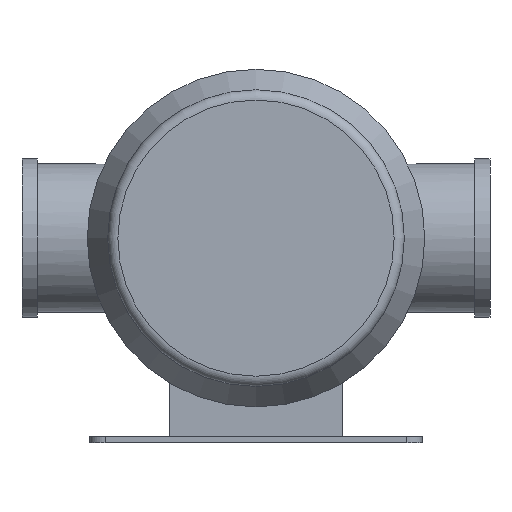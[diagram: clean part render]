
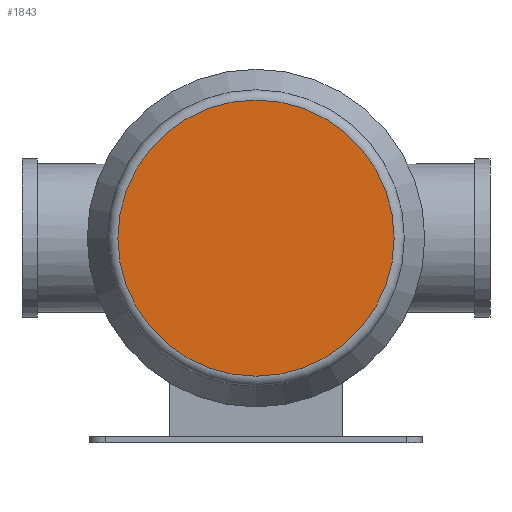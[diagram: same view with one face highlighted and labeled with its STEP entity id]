
A CAD part, front view. The second image highlights one B-rep face of the part: STEP entity #1843.
In plain terms, the highlighted planar face has unit normal (0, -1, 0).
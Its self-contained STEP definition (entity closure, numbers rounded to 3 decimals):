
#77=CIRCLE('',#1947,27.);
#169=ORIENTED_EDGE('',*,*,#487,.T.);
#487=EDGE_CURVE('',#652,#652,#77,.T.);
#652=VERTEX_POINT('',#2587);
#976=EDGE_LOOP('',(#169));
#1100=FACE_BOUND('',#976,.T.);
#1199=PLANE('',#1948);
#1843=ADVANCED_FACE('',(#1100),#1199,.F.);
#1947=AXIS2_PLACEMENT_3D('',#2586,#2138,#2139);
#1948=AXIS2_PLACEMENT_3D('',#2588,#2140,#2141);
#2138=DIRECTION('',(0.,-1.,0.));
#2139=DIRECTION('',(0.,0.,-1.));
#2140=DIRECTION('',(0.,1.,0.));
#2141=DIRECTION('',(0.,0.,1.));
#2586=CARTESIAN_POINT('',(0.,-115.5,0.));
#2587=CARTESIAN_POINT('',(0.,-115.5,-27.));
#2588=CARTESIAN_POINT('',(27.,-115.5,0.));
